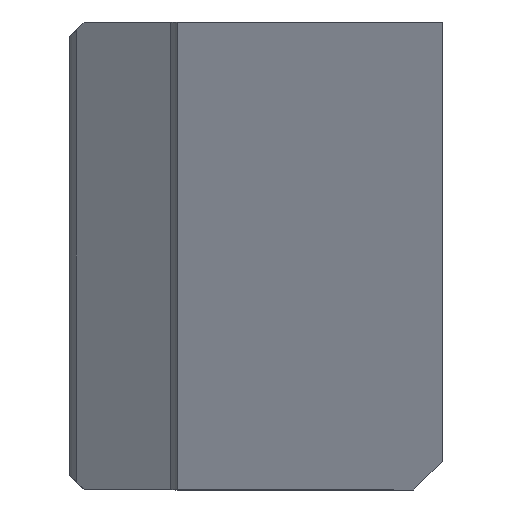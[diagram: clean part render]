
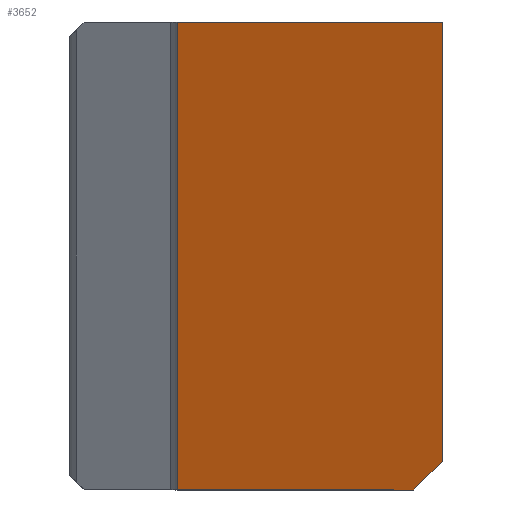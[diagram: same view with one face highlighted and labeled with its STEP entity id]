
A CAD part, left-side view. The second image highlights one B-rep face of the part: STEP entity #3652.
In plain terms, the highlighted planar face has unit normal (-0.943, 0, -0.334).
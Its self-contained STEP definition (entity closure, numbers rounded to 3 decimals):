
#691 = DIRECTION ( 'NONE',  ( -0.942, 0., -0.334 ) ) ;
#1744 = AXIS2_PLACEMENT_3D ( 'NONE', #16978, #691, #29493 ) ;
#2298 = CARTESIAN_POINT ( 'NONE',  ( 17.379, 0., -49. ) ) ;
#2985 = ORIENTED_EDGE ( 'NONE', *, *, #26103, .F. ) ;
#3581 = ORIENTED_EDGE ( 'NONE', *, *, #33372, .F. ) ;
#3652 = ADVANCED_FACE ( 'NONE', ( #19035 ), #30000, .T. ) ;
#3920 = CARTESIAN_POINT ( 'NONE',  ( 0., 27.75, 0. ) ) ;
#4510 = CARTESIAN_POINT ( 'NONE',  ( 0., 0., 0. ) ) ;
#4731 = CARTESIAN_POINT ( 'NONE',  ( 17.379, 3., -49. ) ) ;
#5148 = DIRECTION ( 'NONE',  ( 0., 1., 0. ) ) ;
#5320 = CARTESIAN_POINT ( 'NONE',  ( 7.675, -24.361, -21.639 ) ) ;
#6460 = VERTEX_POINT ( 'NONE', #15036 ) ;
#7057 = CARTESIAN_POINT ( 'NONE',  ( 16.315, 0., -46. ) ) ;
#8013 = VECTOR ( 'NONE', #12941, 1000. ) ;
#9460 = VERTEX_POINT ( 'NONE', #7057 ) ;
#11714 = ORIENTED_EDGE ( 'NONE', *, *, #29573, .F. ) ;
#11826 = DIRECTION ( 'NONE',  ( -0.334, 0., 0.942 ) ) ;
#12941 = DIRECTION ( 'NONE',  ( 0.334, 0., -0.942 ) ) ;
#14361 = VECTOR ( 'NONE', #5148, 1000. ) ;
#14851 = EDGE_LOOP ( 'NONE', ( #2985, #22033, #3581, #11714, #27945 ) ) ;
#15036 = CARTESIAN_POINT ( 'NONE',  ( 17.379, 27.75, -49. ) ) ;
#16194 = VECTOR ( 'NONE', #22063, 1000. ) ;
#16960 = LINE ( 'NONE', #3920, #21423 ) ;
#16978 = CARTESIAN_POINT ( 'NONE',  ( 0., 0., 0. ) ) ;
#17083 = CARTESIAN_POINT ( 'NONE',  ( 0., 39., 0. ) ) ;
#18112 = VECTOR ( 'NONE', #31705, 1000. ) ;
#18586 = EDGE_CURVE ( 'NONE', #25347, #9460, #21776, .T. ) ;
#18783 = EDGE_CURVE ( 'NONE', #6460, #22963, #16960, .T. ) ;
#19035 = FACE_OUTER_BOUND ( 'NONE', #14851, .T. ) ;
#20384 = CARTESIAN_POINT ( 'NONE',  ( 0., 27.75, 0. ) ) ;
#21423 = VECTOR ( 'NONE', #11826, 1000. ) ;
#21776 = LINE ( 'NONE', #5320, #18112 ) ;
#22033 = ORIENTED_EDGE ( 'NONE', *, *, #18586, .T. ) ;
#22063 = DIRECTION ( 'NONE',  ( 0., -1., 0. ) ) ;
#22963 = VERTEX_POINT ( 'NONE', #20384 ) ;
#24015 = LINE ( 'NONE', #31198, #14361 ) ;
#25347 = VERTEX_POINT ( 'NONE', #4731 ) ;
#26103 = EDGE_CURVE ( 'NONE', #25347, #6460, #24015, .T. ) ;
#27539 = LINE ( 'NONE', #17083, #16194 ) ;
#27945 = ORIENTED_EDGE ( 'NONE', *, *, #18783, .F. ) ;
#28526 = LINE ( 'NONE', #2298, #8013 ) ;
#29493 = DIRECTION ( 'NONE',  ( -0.334, 0., 0.942 ) ) ;
#29573 = EDGE_CURVE ( 'NONE', #22963, #30121, #27539, .T. ) ;
#30000 = PLANE ( 'NONE',  #1744 ) ;
#30121 = VERTEX_POINT ( 'NONE', #4510 ) ;
#31198 = CARTESIAN_POINT ( 'NONE',  ( 17.379, 39., -49. ) ) ;
#31705 = DIRECTION ( 'NONE',  ( -0.243, -0.686, 0.686 ) ) ;
#33372 = EDGE_CURVE ( 'NONE', #30121, #9460, #28526, .T. ) ;
